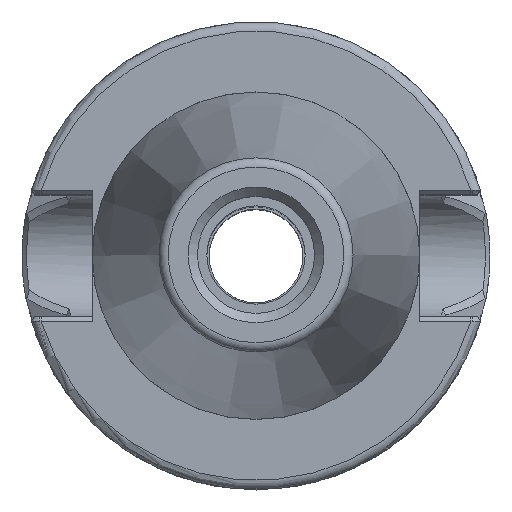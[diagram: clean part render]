
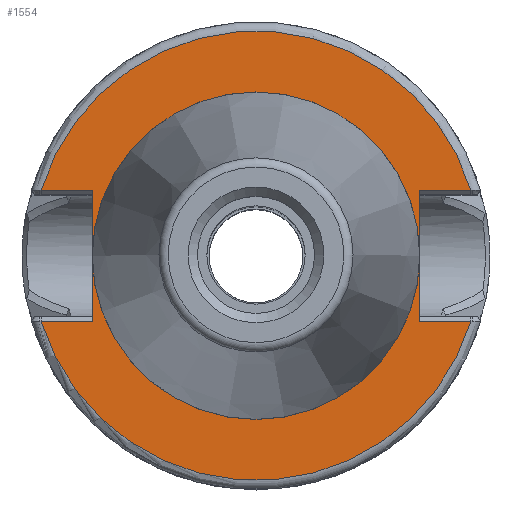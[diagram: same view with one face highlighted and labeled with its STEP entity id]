
A CAD part, top view. The second image highlights one B-rep face of the part: STEP entity #1554.
In plain terms, the highlighted planar face has unit normal (0, 0, 1).
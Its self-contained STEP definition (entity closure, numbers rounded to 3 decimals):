
#182=FACE_BOUND('',#368,.T.);
#205=PLANE('',#1686);
#278=FACE_OUTER_BOUND('',#367,.T.);
#367=EDGE_LOOP('',(#1332,#1333,#1334,#1335,#1336,#1337,#1338,#1339));
#368=EDGE_LOOP('',(#1340,#1341));
#409=LINE('',#2280,#490);
#427=LINE('',#2873,#508);
#434=LINE('',#3081,#515);
#448=LINE('',#3557,#529);
#453=LINE('',#3615,#534);
#454=LINE('',#3617,#535);
#490=VECTOR('',#1795,10.);
#508=VECTOR('',#1823,10.);
#515=VECTOR('',#1878,10.);
#529=VECTOR('',#1902,10.);
#534=VECTOR('',#1921,10.);
#535=VECTOR('',#1924,10.);
#587=CIRCLE('',#1672,48.);
#588=CIRCLE('',#1680,48.);
#590=CIRCLE('',#1687,34.875);
#591=CIRCLE('',#1688,34.875);
#642=VERTEX_POINT('',#2277);
#643=VERTEX_POINT('',#2279);
#686=VERTEX_POINT('',#2866);
#689=VERTEX_POINT('',#2871);
#714=VERTEX_POINT('',#3055);
#717=VERTEX_POINT('',#3080);
#736=VERTEX_POINT('',#3550);
#739=VERTEX_POINT('',#3555);
#742=VERTEX_POINT('',#3618);
#743=VERTEX_POINT('',#3619);
#809=EDGE_CURVE('',#642,#643,#409,.T.);
#868=EDGE_CURVE('',#689,#686,#427,.T.);
#907=EDGE_CURVE('',#686,#714,#587,.T.);
#911=EDGE_CURVE('',#714,#717,#434,.T.);
#947=EDGE_CURVE('',#739,#736,#448,.T.);
#951=EDGE_CURVE('',#736,#642,#588,.T.);
#957=EDGE_CURVE('',#689,#643,#453,.T.);
#958=EDGE_CURVE('',#739,#717,#454,.T.);
#959=EDGE_CURVE('',#742,#743,#590,.T.);
#960=EDGE_CURVE('',#743,#742,#591,.T.);
#1332=ORIENTED_EDGE('',*,*,#809,.F.);
#1333=ORIENTED_EDGE('',*,*,#951,.F.);
#1334=ORIENTED_EDGE('',*,*,#947,.F.);
#1335=ORIENTED_EDGE('',*,*,#958,.T.);
#1336=ORIENTED_EDGE('',*,*,#911,.F.);
#1337=ORIENTED_EDGE('',*,*,#907,.F.);
#1338=ORIENTED_EDGE('',*,*,#868,.F.);
#1339=ORIENTED_EDGE('',*,*,#957,.T.);
#1340=ORIENTED_EDGE('',*,*,#959,.F.);
#1341=ORIENTED_EDGE('',*,*,#960,.F.);
#1554=ADVANCED_FACE('',(#278,#182),#205,.T.);
#1672=AXIS2_PLACEMENT_3D('',#3056,#1873,#1874);
#1680=AXIS2_PLACEMENT_3D('',#3603,#1905,#1906);
#1686=AXIS2_PLACEMENT_3D('',#3616,#1922,#1923);
#1687=AXIS2_PLACEMENT_3D('',#3620,#1925,#1926);
#1688=AXIS2_PLACEMENT_3D('',#3621,#1927,#1928);
#1795=DIRECTION('',(1.,0.,0.));
#1823=DIRECTION('',(-1.,0.,0.));
#1873=DIRECTION('center_axis',(0.,0.,-1.));
#1874=DIRECTION('ref_axis',(-1.,0.,0.));
#1878=DIRECTION('',(-1.,0.,0.));
#1902=DIRECTION('',(1.,0.,0.));
#1905=DIRECTION('center_axis',(0.,0.,-1.));
#1906=DIRECTION('ref_axis',(-1.,0.,0.));
#1921=DIRECTION('',(0.,-1.,0.));
#1922=DIRECTION('center_axis',(0.,0.,1.));
#1923=DIRECTION('ref_axis',(1.,0.,0.));
#1924=DIRECTION('',(0.,1.,0.));
#1925=DIRECTION('center_axis',(0.,0.,1.));
#1926=DIRECTION('ref_axis',(1.,0.,0.));
#1927=DIRECTION('center_axis',(0.,0.,1.));
#1928=DIRECTION('ref_axis',(1.,0.,0.));
#2277=CARTESIAN_POINT('',(-45.913,-14.,-105.));
#2279=CARTESIAN_POINT('',(-35.,-14.,-105.));
#2280=CARTESIAN_POINT('',(-7.563,-14.,-105.));
#2866=CARTESIAN_POINT('',(-45.913,14.,-105.));
#2871=CARTESIAN_POINT('',(-35.,14.,-105.));
#2873=CARTESIAN_POINT('',(-7.563,14.,-105.));
#3055=CARTESIAN_POINT('',(45.913,14.,-105.));
#3056=CARTESIAN_POINT('Origin',(0.,0.,-105.));
#3080=CARTESIAN_POINT('',(35.,14.,-105.));
#3081=CARTESIAN_POINT('',(42.438,14.,-105.));
#3550=CARTESIAN_POINT('',(45.913,-14.,-105.));
#3555=CARTESIAN_POINT('',(35.,-14.,-105.));
#3557=CARTESIAN_POINT('',(42.438,-14.,-105.));
#3603=CARTESIAN_POINT('Origin',(0.,0.,-105.));
#3615=CARTESIAN_POINT('',(-35.,0.,-105.));
#3616=CARTESIAN_POINT('Origin',(34.875,0.,-105.));
#3617=CARTESIAN_POINT('',(35.,0.,-105.));
#3618=CARTESIAN_POINT('',(34.875,0.,-105.));
#3619=CARTESIAN_POINT('',(-34.875,0.,-105.));
#3620=CARTESIAN_POINT('Origin',(0.,0.,-105.));
#3621=CARTESIAN_POINT('Origin',(0.,0.,-105.));
